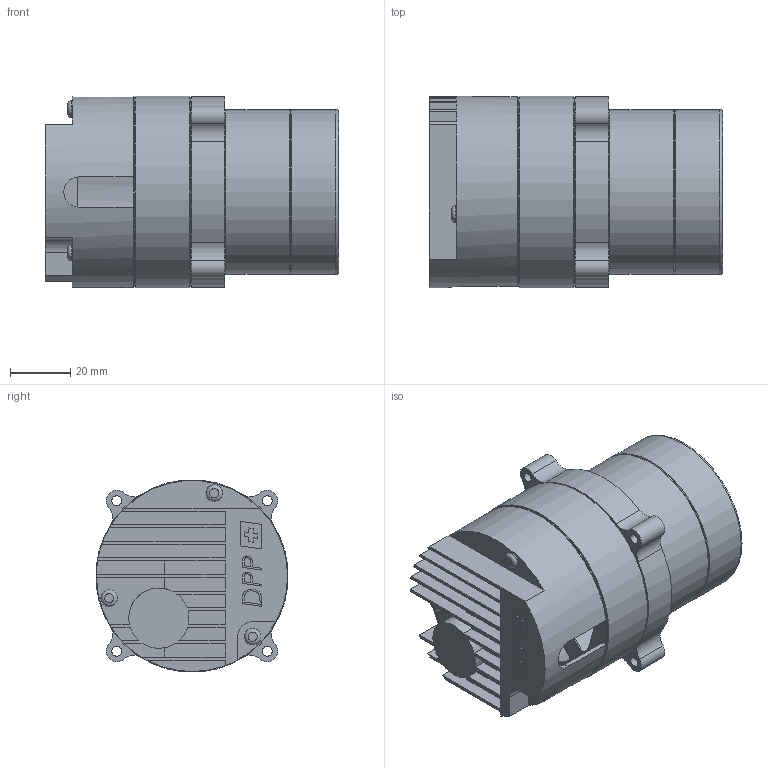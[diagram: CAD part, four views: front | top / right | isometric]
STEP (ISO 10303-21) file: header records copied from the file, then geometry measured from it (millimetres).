
FILE_DESCRIPTION (( 'STEP AP214' ), '1' );
FILE_NAME ('Silencer 3000 - 65W Adv Motor.STEP', '2020-04-22T21:11:45', ( '' ), ( '' ), 'SwSTEP 2.0', 'SolidWorks 2019', '' );
FILE_SCHEMA (( 'AUTOMOTIVE_DESIGN' ));
Length unit declared in the file: millimetre
Products named in the file (19): PD02-BO-00; PD03-SC-4; PD02-PU-01; Silencer 3000 - 65W Adv Motor; Copy of SO0015^Adv Stator WN02; PD01-SC-00; Adv Stator WN02; PD02-EP-00 1-4 NPT; Copy of SO0016^Adv Stator WN02; Adv Stator CV; PD02-BB-00; Adv Stator MB; Copy of LS0003^Adv Stator WN02; PD02-CU-00
Assembly tree (20 placements, depth 4):
  Silencer 3000 - 65W Adv Motor
    PD02-PU-01
      PD01-SC-00
      PD02-CU-00
      PD02-BO-00
        PD02-BB-00
      PD02-EP-00 1-4 NPT
      PD01-SC-00
      PD01-SC-00
      PD01-SC-00
      PD01-SC-00
      PD01-SC-00
      Adv Stator MB
    Adv Stator WN02
      Copy of LS0003^Adv Stator WN02
      Copy of SO0015^Adv Stator WN02
      Copy of SO0016^Adv Stator WN02
    Adv Stator CV
    PD03-SC-4  x3
Bounding box: 97.36 x 63.76 x 63.76 mm (x, y, z)
Volume: 156957.2 mm3; surface area: 78810.7 mm2
Topology: 17 solids, 17 shells, 1156 faces, 2919 edges, 1816 vertices
Faces by surface type: cylinder 476, plane 379, cone 120, torus 92, bspline 89
Full cylindrical faces by diameter (mm): 2.35 x54, 2.989 x60, 3 x9, 3.3 x6, 3.5 x3, 3.6 x6, 3.8 x12, 4 x12, 5.5 x9, 6 x2, 11.125 x2, 17 x1, 26 x1, 36.1 x1, 36.7 x1, 42.7 x2, 54.8 x2, 60.5 x1, 60.62 x1, 63.5 x1, 64 x1
Entity records: 36861 total; most frequent: CARTESIAN_POINT 9715, DIRECTION 5557, ORIENTED_EDGE 5050, EDGE_CURVE 2525, AXIS2_PLACEMENT_3D 2191, VERTEX_POINT 1773, EDGE_LOOP 1604, FACE_OUTER_BOUND 1345
